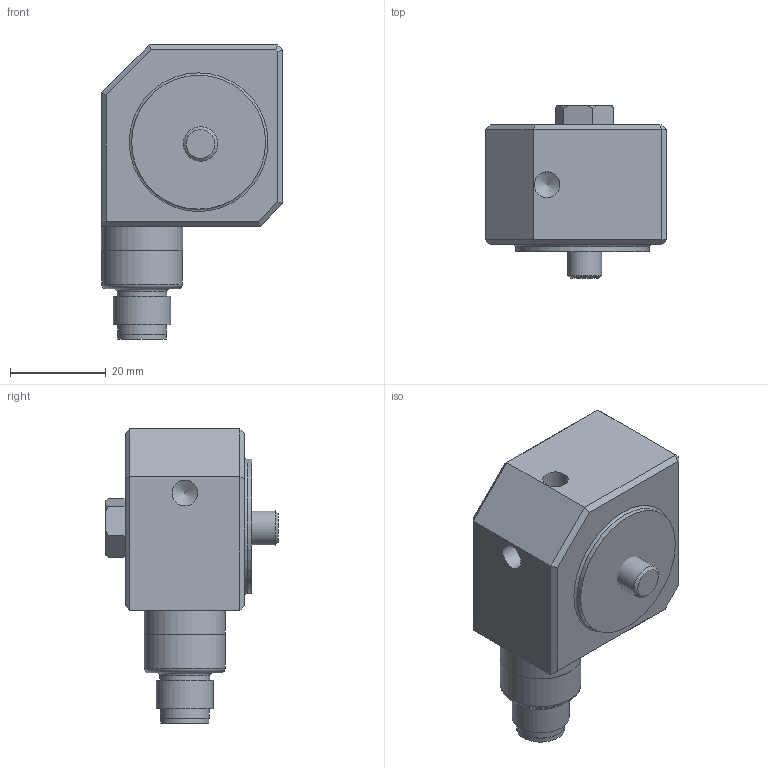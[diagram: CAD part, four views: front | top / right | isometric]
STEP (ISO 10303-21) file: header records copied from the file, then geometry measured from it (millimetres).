
FILE_DESCRIPTION(/* description */ (''),/* implementation_level */ '2;1');
FILE_NAME(/* name */ 'Z:\Engineering\Drawings\3D Library\Assemblies\Website\HS-183XXX5402.stp',/* time_stamp */ '2023-03-25T20:16:45+00:00',/* author */ ('Ricardo.Peneda'),/* organization */ (''),/* preprocessor_version */ 'ST-DEVELOPER v18.1',/* originating_system */ 'Autodesk Inventor 2021',/* authorisation */ '');
FILE_SCHEMA (('AUTOMOTIVE_DESIGN { 1 0 10303 214 3 1 1 }'));
Length unit declared in the file: inch
Products named in the file (1): HS-183XXX5402_Shrinkwrap_1
Bounding box: 37.9 x 36 x 61.5 mm (x, y, z)
Volume: 36353.7 mm3; surface area: 10588 mm2
Topology: 3 solids, 3 shells, 88 faces, 219 edges, 153 vertices
Faces by surface type: plane 54, cylinder 21, cone 10, torus 3
Full cylindrical faces by diameter (mm): 0.75 x4, 4.5 x1, 5.359 x2, 6.7 x1, 7.2 x1, 8.4 x1, 9.5 x1, 10.1 x1, 10.2 x1, 10.4 x1, 12 x1, 13.5 x1, 15 x2, 16.9 x1, 17 x1, 28 x1
Entity records: 2831 total; most frequent: DIRECTION 485, CARTESIAN_POINT 483, ORIENTED_EDGE 434, EDGE_CURVE 217, AXIS2_PLACEMENT_3D 191, VERTEX_POINT 153, EDGE_LOOP 108, LINE 103
